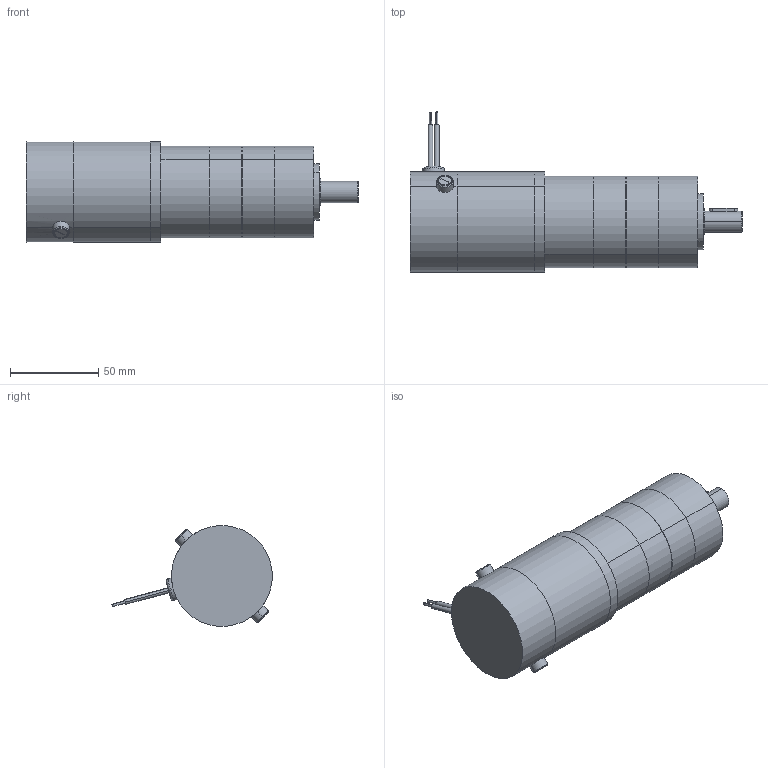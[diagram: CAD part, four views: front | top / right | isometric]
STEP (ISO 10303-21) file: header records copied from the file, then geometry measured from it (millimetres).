
FILE_DESCRIPTION (( 'STEP AP203' ), '1' );
FILE_NAME ('d22301gp2.step', '2018-12-07T19:14:16', ( '' ), ( '' ), 'SwSTEP 2.0', 'SolidWorks 2017', '' );
FILE_SCHEMA (( 'CONFIG_CONTROL_DESIGN' ));
Length unit declared in the file: inch
Products named in the file (1): d22301gp2
Bounding box: 188.2 x 90.76 x 56.93 mm (x, y, z)
Volume: 381263.1 mm3; surface area: 73851.7 mm2
Topology: 17 solids, 17 shells, 330 faces, 701 edges, 434 vertices
Faces by surface type: cylinder 138, plane 133, cone 49, torus 6, sphere 4
Entity records: 9141 total; most frequent: CARTESIAN_POINT 1710, DIRECTION 1686, ORIENTED_EDGE 1370, EDGE_CURVE 685, AXIS2_PLACEMENT_3D 680, VERTEX_POINT 434, EDGE_LOOP 395, CIRCLE 349
